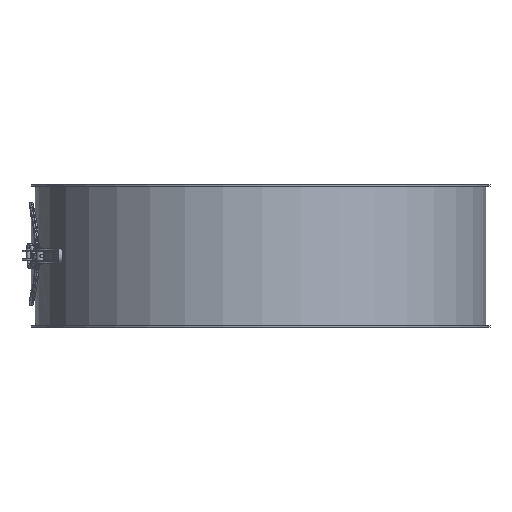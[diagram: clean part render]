
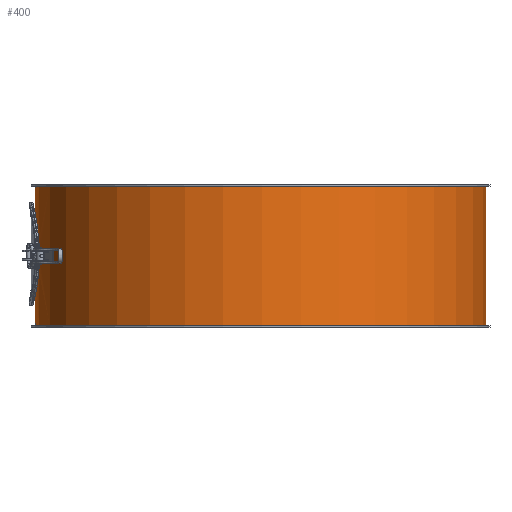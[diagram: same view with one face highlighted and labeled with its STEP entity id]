
A CAD part, front view. The second image highlights one B-rep face of the part: STEP entity #400.
In plain terms, the highlighted cylindrical face has radius 315.5 mm (diameter 631 mm), a full revolution.
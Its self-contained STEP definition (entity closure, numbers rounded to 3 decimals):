
#143=CARTESIAN_POINT('',(315.5,0.,198.0));
#144=VERTEX_POINT('',#143);
#145=CARTESIAN_POINT('',(0.0,0.0,198.0));
#146=DIRECTION('',(0.0,0.0,-1.0));
#147=DIRECTION('',(-1.0,0.0,0.0));
#148=AXIS2_PLACEMENT_3D('',#145,#146,#147);
#149=CIRCLE('',#148,315.5);
#150=EDGE_CURVE('',#144,#144,#149,.T.);
#191=CARTESIAN_POINT('',(-315.5,0.,2.0));
#192=VERTEX_POINT('',#191);
#193=CARTESIAN_POINT('',(0.0,0.0,2.0));
#194=DIRECTION('',(0.0,0.0,1.0));
#195=DIRECTION('',(-1.0,0.0,0.0));
#196=AXIS2_PLACEMENT_3D('',#193,#194,#195);
#197=CIRCLE('',#196,315.5);
#198=EDGE_CURVE('',#192,#192,#197,.T.);
#281=CARTESIAN_POINT('',(-310.216,-57.5,100.));
#282=VERTEX_POINT('',#281);
#283=CARTESIAN_POINT('',(-310.216,-57.5,100.));
#284=CARTESIAN_POINT('',(-310.216,-57.5,96.381));
#285=CARTESIAN_POINT('',(-310.281,-57.153,92.642));
#286=CARTESIAN_POINT('',(-310.546,-55.694,85.208));
#287=CARTESIAN_POINT('',(-310.746,-54.582,81.514));
#288=CARTESIAN_POINT('',(-311.248,-51.646,74.433));
#289=CARTESIAN_POINT('',(-311.549,-49.818,71.04));
#290=CARTESIAN_POINT('',(-312.195,-45.599,64.769));
#291=CARTESIAN_POINT('',(-312.538,-43.207,61.889));
#292=CARTESIAN_POINT('',(-313.2,-38.111,56.793));
#293=CARTESIAN_POINT('',(-313.543,-35.232,54.401));
#294=CARTESIAN_POINT('',(-314.184,-28.96,50.182));
#295=CARTESIAN_POINT('',(-314.482,-25.567,48.355));
#296=CARTESIAN_POINT('',(-314.978,-18.486,45.418));
#297=CARTESIAN_POINT('',(-315.175,-14.792,44.306));
#298=CARTESIAN_POINT('',(-315.436,-7.358,42.847));
#299=CARTESIAN_POINT('',(-315.5,-3.619,42.5));
#300=CARTESIAN_POINT('',(-315.5,3.619,42.5));
#301=CARTESIAN_POINT('',(-315.436,7.358,42.847));
#302=CARTESIAN_POINT('',(-315.175,14.792,44.306));
#303=CARTESIAN_POINT('',(-314.978,18.486,45.418));
#304=CARTESIAN_POINT('',(-314.482,25.567,48.355));
#305=CARTESIAN_POINT('',(-314.184,28.96,50.182));
#306=CARTESIAN_POINT('',(-313.543,35.232,54.401));
#307=CARTESIAN_POINT('',(-313.2,38.111,56.793));
#308=CARTESIAN_POINT('',(-312.538,43.207,61.889));
#309=CARTESIAN_POINT('',(-312.195,45.599,64.769));
#310=CARTESIAN_POINT('',(-311.549,49.818,71.04));
#311=CARTESIAN_POINT('',(-311.248,51.646,74.433));
#312=CARTESIAN_POINT('',(-310.746,54.582,81.514));
#313=CARTESIAN_POINT('',(-310.546,55.694,85.208));
#314=CARTESIAN_POINT('',(-310.281,57.153,92.642));
#315=CARTESIAN_POINT('',(-310.216,57.5,96.381));
#316=CARTESIAN_POINT('',(-310.216,57.5,103.619));
#317=CARTESIAN_POINT('',(-310.281,57.153,107.358));
#318=CARTESIAN_POINT('',(-310.546,55.694,114.792));
#319=CARTESIAN_POINT('',(-310.746,54.582,118.486));
#320=CARTESIAN_POINT('',(-311.248,51.646,125.567));
#321=CARTESIAN_POINT('',(-311.549,49.818,128.96));
#322=CARTESIAN_POINT('',(-312.195,45.599,135.231));
#323=CARTESIAN_POINT('',(-312.538,43.207,138.111));
#324=CARTESIAN_POINT('',(-313.2,38.111,143.207));
#325=CARTESIAN_POINT('',(-313.543,35.232,145.599));
#326=CARTESIAN_POINT('',(-314.184,28.96,149.818));
#327=CARTESIAN_POINT('',(-314.482,25.567,151.645));
#328=CARTESIAN_POINT('',(-314.978,18.486,154.582));
#329=CARTESIAN_POINT('',(-315.175,14.792,155.694));
#330=CARTESIAN_POINT('',(-315.436,7.358,157.153));
#331=CARTESIAN_POINT('',(-315.5,3.619,157.5));
#332=CARTESIAN_POINT('',(-315.5,-3.619,157.5));
#333=CARTESIAN_POINT('',(-315.436,-7.358,157.153));
#334=CARTESIAN_POINT('',(-315.175,-14.792,155.694));
#335=CARTESIAN_POINT('',(-314.978,-18.486,154.582));
#336=CARTESIAN_POINT('',(-314.482,-25.567,151.645));
#337=CARTESIAN_POINT('',(-314.184,-28.96,149.818));
#338=CARTESIAN_POINT('',(-313.543,-35.232,145.599));
#339=CARTESIAN_POINT('',(-313.2,-38.111,143.207));
#340=CARTESIAN_POINT('',(-312.538,-43.207,138.111));
#341=CARTESIAN_POINT('',(-312.195,-45.599,135.231));
#342=CARTESIAN_POINT('',(-311.549,-49.818,128.96));
#343=CARTESIAN_POINT('',(-311.248,-51.646,125.567));
#344=CARTESIAN_POINT('',(-310.746,-54.582,118.486));
#345=CARTESIAN_POINT('',(-310.546,-55.694,114.792));
#346=CARTESIAN_POINT('',(-310.281,-57.153,107.358));
#347=CARTESIAN_POINT('',(-310.216,-57.5,103.619));
#348=CARTESIAN_POINT('',(-310.216,-57.5,100.0));
#349=B_SPLINE_CURVE_WITH_KNOTS('',3,(#283,#284,#285,#286,#287,#288,#289,#290,#291,#292,#293,#294,#295,#296,#297,#298,#299,#300,#301,#302,#303,#304,#305,#306,#307,#308,#309,#310,#311,#312,#313,#314,#315,#316,#317,#318,#319,#320,#321,#322,#323,#324,#325,#326,#327,#328,#329,#330,#331,#332,#333,#334,#335,#336,#337,#338,#339,#340,#341,#342,#343,#344,#345,#346,#347,#348),.UNSPECIFIED.,.T.,.U.,(4,2,2,2,2,2,2,2,2,2,2,2,2,2,2,2,2,2,2,2,2,2,2,2,2,2,2,2,2,2,2,2,4),(0.0,1.086,2.171,3.257,4.342,5.428,6.514,7.599,8.685,9.77,10.856,11.941,13.027,14.113,15.198,16.284,17.369,18.455,19.541,20.626,21.712,22.797,23.883,24.969,26.054,27.14,28.225,29.311,30.396,31.482,32.568,33.653,34.739),.UNSPECIFIED.);
#350=EDGE_CURVE('',#282,#282,#349,.T.);
#386=CARTESIAN_POINT('',(0.0,0.0,0.0));
#387=DIRECTION('',(0.0,0.0,1.0));
#388=DIRECTION('',(-1.0,0.0,0.0));
#389=AXIS2_PLACEMENT_3D('',#386,#387,#388);
#390=CYLINDRICAL_SURFACE('',#389,315.5);
#391=ORIENTED_EDGE('',*,*,#150,.T.);
#392=EDGE_LOOP('',(#391));
#393=FACE_OUTER_BOUND('',#392,.T.);
#394=ORIENTED_EDGE('',*,*,#198,.T.);
#395=EDGE_LOOP('',(#394));
#396=FACE_BOUND('',#395,.T.);
#397=ORIENTED_EDGE('',*,*,#350,.T.);
#398=EDGE_LOOP('',(#397));
#399=FACE_BOUND('',#398,.T.);
#400=ADVANCED_FACE('',(#393,#396,#399),#390,.T.);
